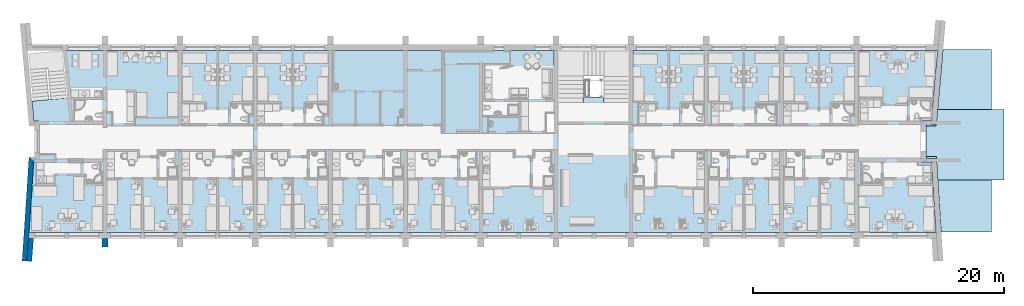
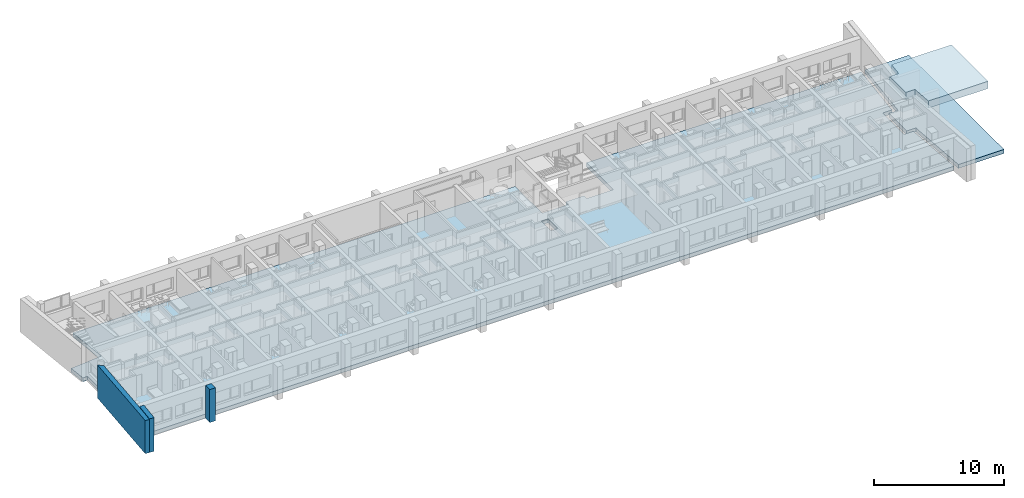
# One storey, part 1 of 172: 3 slabs, 3 walls, 1 opening.
"""IFC2X3 building model written with IfcOpenShell, lengths in millimetres."""

from ifc_helpers import new_model, entity, si_unit, converted_unit, money_unit, direction, frame, origin_with_axes, place, context, subcontext, project, spatial, polyline, outline, extrude, material, layer, layer_set, layer_usage, type_object, element, save


model = new_model("IFC2X3")

# Units and contexts
model_context = context("Model", 3, precision=1e-05, world=origin_with_axes(), true_north=direction((0.0, 1.0)))
body_context = subcontext(model_context, "Body", "Model", "MODEL_VIEW")
ifc_project = project(units=[si_unit("LENGTHUNIT", "METRE", prefix="MILLI"), si_unit("AREAUNIT", "SQUARE_METRE"), si_unit("VOLUMEUNIT", "CUBIC_METRE"), converted_unit("PLANEANGLEUNIT", "DEGREE", entity("IfcPlaneAngleMeasure", 0.0174532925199), si_unit("PLANEANGLEUNIT", "RADIAN"), dimensions=[0, 0, 0, 0, 0, 0, 0]), si_unit("SOLIDANGLEUNIT", "STERADIAN"), money_unit("USD"), converted_unit("TIMEUNIT", "Year", entity("IfcTimeMeasure", 31556926.0), si_unit("TIMEUNIT", "SECOND"), dimensions=[0, 0, 0, 0, 0, 0, 0]), si_unit("MASSUNIT", "GRAM"), si_unit("THERMODYNAMICTEMPERATUREUNIT", "DEGREE_CELSIUS"), si_unit("LUMINOUSINTENSITYUNIT", "LUMEN")], contexts=[model_context])

# Site, building, storey
site_placement = place(None, origin_with_axes())
site = spatial("IfcSite", under=ifc_project, at=site_placement, Name="Site", CompositionType="ELEMENT")
building_placement = place(site_placement, origin_with_axes())
building = spatial("IfcBuilding", under=site, at=building_placement, Name="Building", CompositionType="ELEMENT")
storey_placement = place(building_placement, frame((0.0, 0.0, 3200.0), z_axis=(0.0, 0.0, 1.0), x_axis=(1.0, 0.0, 0.0)))
storey = spatial("IfcBuildingStorey", under=building, at=storey_placement, Name="3KORRUS", CompositionType="ELEMENT", Elevation=3200.0)

# Slab
ifc_material_1 = material(Name="Plaat")
ifc_layer_1 = layer(ifc_material_1, 10.0, ventilated="UNKNOWN")
ifc_material_2 = material(Name="Betoonvalu")
ifc_layer_2 = layer(ifc_material_2, 15.0, ventilated="UNKNOWN")
ifc_material_3 = material(Name="Vahtpolüstüreen")
ifc_layer_3 = layer(ifc_material_3, 30.0, ventilated="UNKNOWN")
ifc_material_4 = material(Name="Reinforced Concrete - Structural (1)")
ifc_layer_4 = layer(ifc_material_4, 265.0, ventilated="UNKNOWN")
ifc_material_5 = material(Name="Kile")
ifc_layer_5 = layer(ifc_material_5, 45.0, ventilated="UNKNOWN")
ifc_layer_set_1 = layer_set([ifc_layer_1, ifc_layer_2, ifc_layer_3, ifc_layer_4, ifc_layer_5], Name="Olemasolev põrand, vahelagi, uus viimistlus")
ifc_layer_usage_1 = layer_usage(ifc_layer_set_1, "AXIS3", "NEGATIVE", 365.0)
slab_type_1 = type_object("IfcSlabType", Name="Olemasolev põrand, vahelagi, uus viimistlus 365", PredefinedType="NOTDEFINED")
slab_1_placement = place(storey_placement, frame((18606.4920166, -19610.8935182, 0.0), z_axis=(0.0, 0.0, 1.0), x_axis=(1.0, 0.0, 0.0)))
element("IfcSlab", 1, at=slab_1_placement, inside=storey, type_object=slab_type_1, material=ifc_layer_usage_1, Name="SLA - 012", ObjectType="VAHELAEPANEEL", PredefinedType="FLOOR", context=body_context, shape_type="SweptSolid", body=[
    extrude(outline(polyline([(0.0, 0.0), (4039.07918282, 0.0), (4039.07918282, 14571.2894094), (149.500008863, 14571.2894094), (-386.485640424, 8571.28940944), (-1191.31204688, 8613.24084704), (-1191.31204688, 5871.65361883), (-360.491917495, 5871.65361883), (-360.491917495, 5571.65361883), (0.0, 0.0)])), frame((0.0, 0.0, -365.0), z_axis=(0.0, 0.0, 1.0), x_axis=(1.0, 0.0, 0.0)), (0.0, 0.0, 1.0), 365.0),
])

# Slab, opening
ifc_layer_usage_2 = layer_usage(ifc_layer_set_1, "AXIS3", "NEGATIVE", 365.0)
slab_2_placement = place(storey_placement, frame((-53828.9085264, -14087.3375673, 0.0), z_axis=(0.0, 0.0, 1.0), x_axis=(1.0, 0.0, 0.0)))
slab_2 = element("IfcSlab", 2, at=slab_2_placement, inside=storey, type_object=slab_type_1, material=ifc_layer_usage_2, Name="P3", ObjectType="P3", PredefinedType="FLOOR", context=body_context, shape_type="SweptSolid", body=[
    extrude(outline(polyline([(0.0, 0.0), (-369.201533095, -5551.90233206), (72046.4251793, -5551.90233206), (71674.0251511, 48.09766794), (70844.0884961, 48.09766794), (70844.0884961, 3347.73345855), (71670.5136375, 3347.73345855), (72174.2892622, 8947.73345854), (47838.6118231, 8947.73345854), (47838.6118231, 4806.37527254), (45488.6118231, 4806.37527254), (45488.6118231, 5216.69404044), (43888.6118231, 5216.69404044), (43888.6118231, 4806.37527254), (41538.6118231, 4806.37527254), (41538.6118231, 8947.73345854), (2348.29449564, 8947.73345854), (2693.83699557, 5168.30264774), (-58.576388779, 4921.10214754), (-134.281151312, 4914.99963284), (6.710008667, 3347.73345855), (436.681695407, 3347.73345855), (436.681695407, 0.0), (0.0, 0.0)])), frame((0.0, 0.0, -365.0), z_axis=(0.0, 0.0, 1.0), x_axis=(1.0, 0.0, 0.0)), (0.0, 0.0, 1.0), 365.0),
])
opening_placement = place(slab_2_placement, origin_with_axes())
element("IfcOpeningElement", 3, at=opening_placement, cuts=slab_2, Name="Slab Opening", context=body_context, shape_type="SweptSolid", body=[
    extrude(outline(polyline([(41538.6118231, 2445.22834112), (41538.6118231, 3925.09766794), (40938.6118231, 3925.09766794), (40938.6118231, 2445.22834112), (41538.6118231, 2445.22834112)])), frame((0.0, 0.0, -365.0), z_axis=(0.0, 0.0, 1.0), x_axis=(1.0, 0.0, 0.0)), (0.0, 0.0, 1.0), 365.0),
])

# Slab
ifc_material_6 = material(Name="Sillutis, Pinnas")
ifc_layer_6 = layer(ifc_material_6, 30.0, ventilated="UNKNOWN")
ifc_material_7 = material(Name="Membrane - Rainproof (1)")
ifc_layer_7 = layer(ifc_material_7, 5.0, ventilated="UNKNOWN")
ifc_layer_8 = layer(ifc_material_3, 300.0, ventilated="UNKNOWN")
ifc_material_8 = material(Name="Membrane - Vapor Barrier")
ifc_layer_9 = layer(ifc_material_8, 5.0, ventilated="UNKNOWN")
ifc_layer_10 = layer(ifc_material_4, 320.0, ventilated="UNKNOWN")
ifc_material_9 = material(Name="Plaster - Gypsum (1)")
ifc_layer_11 = layer(ifc_material_9, 20.0, ventilated="UNKNOWN")
ifc_layer_set_2 = layer_set([ifc_layer_6, ifc_layer_7, ifc_layer_8, ifc_layer_9, ifc_layer_10, ifc_layer_11], Name="Flat Roof (1)")
ifc_layer_usage_3 = layer_usage(ifc_layer_set_2, "AXIS3", "NEGATIVE", 680.0)
slab_type_2 = type_object("IfcSlabType", Name="Flat Roof 680", PredefinedType="ROOF")
slab_3_placement = place(storey_placement, frame((23624.9409325, -15007.9260941, 2850.0), z_axis=(0.0, 0.0, 1.0), x_axis=(-1.0, 0.0, 0.0)))
element("IfcSlab", 4, at=slab_3_placement, inside=storey, type_object=slab_type_2, material=ifc_layer_usage_3, Name="K1", ObjectType="K1", PredefinedType="ROOF", context=body_context, shape_type="SweptSolid", body=[
    extrude(outline(polyline([(0.0, -5177.14827684), (5299.96257264, -5177.14827684), (5417.70449809, -3868.32198526), (6209.76096274, -3868.32198526), (6209.76096274, -1400.10928241), (5405.54083537, -1400.10928241), (5284.02454954, 458.626235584), (0.0, 458.626235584), (0.0, -5177.14827684)])), origin_with_axes(), (0.0, 0.0, 1.0), 680.0),
])

# Walls
ifc_material_10 = material(Name="Olemasolevad seinad tellis, uus viimistlus")
ifc_layer_12 = layer(ifc_material_10, 400.0, ventilated="UNKNOWN")
ifc_layer_set_3 = layer_set([ifc_layer_12], Name="Olemasolevad seinad tellis, uus viimistlus 400")
ifc_layer_usage_4 = layer_usage(ifc_layer_set_3, "AXIS2", "POSITIVE", -400.0)
wall_type_1 = type_object("IfcWallType", Name="Olemasolevad seinad tellis, uus viimistlus 400", PredefinedType="NOTDEFINED")
wall_1_placement = place(storey_placement, frame((-53833.4687818, -20139.2398994, 0.0), z_axis=(0.0, 0.0, 1.0), x_axis=(-0.0832329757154, -0.996530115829, 0.0)))
element("IfcWallStandardCase", 5, at=wall_1_placement, inside=storey, type_object=wall_type_1, material=ifc_layer_usage_4, Name="VS1", ObjectType="VS1", context=body_context, shape_type="SweptSolid", body=[
    extrude(outline(polyline([(0.0, -400.0), (1841.51942027, -400.0), (1841.51942027, 0.0), (0.0, 0.0), (0.0, -400.0)])), origin_with_axes(), (0.0, 0.0, 1.0), 3150.0),
])
ifc_layer_usage_5 = layer_usage(ifc_layer_set_3, "AXIS2", "POSITIVE", 0.0)
wall_2_placement = place(storey_placement, frame((-54200.4261075, -13645.7452196, 0.0), z_axis=(0.0, 0.0, 1.0), x_axis=(-0.0663534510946, -0.997796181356, 0.0)))
element("IfcWallStandardCase", 6, at=wall_2_placement, inside=storey, type_object=wall_type_1, material=ifc_layer_usage_5, Name="VS1", ObjectType="VS1", context=body_context, shape_type="SweptSolid", body=[
    extrude(outline(polyline([(0.0, 0.0), (8288.6967778, 0.0), (8288.6967778, 400.0), (274.062603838, 400.0), (0.0, 0.0)])), origin_with_axes(), (0.0, 0.0, 1.0), 3100.0),
])
ifc_layer_13 = layer(ifc_material_10, 500.0, ventilated="UNKNOWN")
ifc_layer_set_4 = layer_set([ifc_layer_13], Name="Olemasolevad seinad tellis, uus viimistlus 500")
ifc_layer_usage_6 = layer_usage(ifc_layer_set_4, "AXIS2", "POSITIVE", -100.0)
wall_type_2 = type_object("IfcWallType", Name="Olemasolevad seinad tellis, uus viimistlus 500", PredefinedType="NOTDEFINED")
wall_3_placement = place(storey_placement, frame((-47990.2967033, -20796.6419407, 0.0), z_axis=(0.0, 0.0, 1.0), x_axis=(0.0, 1.0, 0.0)))
element("IfcWallStandardCase", 7, at=wall_3_placement, inside=storey, type_object=wall_type_2, material=ifc_layer_usage_6, Name="VS1", ObjectType="VS1", context=body_context, shape_type="SweptSolid", body=[
    extrude(outline(polyline([(0.0, -100.0), (657.402041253, -100.0), (657.402041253, 400.0), (0.0, 400.0), (0.0, -100.0)])), origin_with_axes(), (0.0, 0.0, 1.0), 3100.0),
])

save(model, "model.ifc")
